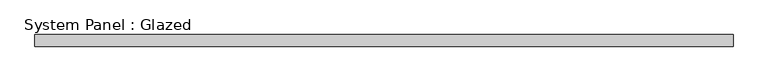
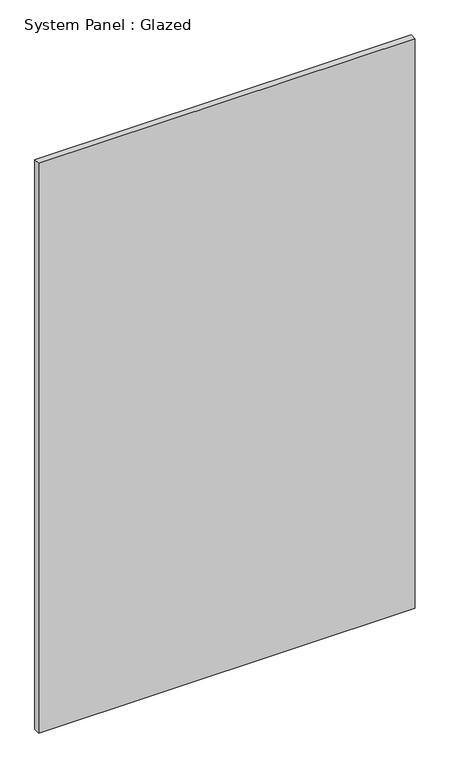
"""IFC4 building model written with IfcOpenShell, lengths in millimetres: plate geometry, System Panel : Glazed."""

import ifcopenshell
import ifcopenshell.guid

model = None  # the IFC model being written
_history = None  # IfcOwnerHistory: only IFC2X3 demands one
_inside = {}  # id of a spatial element -> (the spatial element, [elements in it])
_under = {}  # id of a project, library or spatial element -> (it, [spatial elements below it])
_declared = {}  # id of a project -> (the project, [libraries it declares])
_typed = {}  # id of a type object -> (the type object, [elements of that type])
_made_of = {}  # id of a material, layer set ... -> (it, [elements and type objects made of it])


def new_model(schema):
    """Start an empty IFC model of exactly this schema.

    Asked for "IFC4X3", IfcOpenShell would pick the latest addendum, in which some entities
    have other attributes; the version numbers below select the first issue.
    IFC2X3 requires an IfcOwnerHistory on every rooted entity: one is made here for all.
    """
    global model, _history
    if schema == "IFC4X3":
        model = ifcopenshell.file(schema_version=(4, 3, 0, 0))
    else:
        model = ifcopenshell.file(schema=schema)
    _inside.clear()
    _under.clear()
    _declared.clear()
    _typed.clear()
    _made_of.clear()
    _history = None
    if model.schema == "IFC2X3":
        org = make("IfcOrganization", Name="unknown")
        user = make(
            "IfcPersonAndOrganization",
            ThePerson=make("IfcPerson", FamilyName="unknown"),
            TheOrganization=org,
        )
        app = make(
            "IfcApplication",
            ApplicationDeveloper=org,
            Version="unknown",
            ApplicationFullName="unknown",
            ApplicationIdentifier="unknown",
        )
        _history = make(
            "IfcOwnerHistory",
            OwningUser=user,
            OwningApplication=app,
            ChangeAction="ADDED",
            CreationDate=0,
        )
    return model


def make(cls, **values):
    """One entity of the class cls with the attributes given. An attribute that is None is left unset."""
    return model.create_entity(
        cls, **{name: value for name, value in values.items() if value is not None}
    )


def rooted(cls, **values):
    """An entity with a GlobalId (a new one), such as an element, a storey or a relation."""
    return make(cls, GlobalId=ifcopenshell.guid.new(), OwnerHistory=_history, **values)


def si_unit(unit_type, name, prefix=None):
    """IfcSIUnit, for example si_unit("LENGTHUNIT", "METRE", prefix="MILLI")."""
    return make("IfcSIUnit", UnitType=unit_type, Prefix=prefix, Name=name)


def assignment(units):
    """IfcUnitAssignment: the units of a project."""
    return None if units is None else make("IfcUnitAssignment", Units=units)


def point(xyz):
    """IfcCartesianPoint."""
    return None if xyz is None else make("IfcCartesianPoint", Coordinates=xyz)


def direction(xyz):
    """IfcDirection."""
    return None if xyz is None else make("IfcDirection", DirectionRatios=xyz)


def frame(location, z_axis=None, x_axis=None):
    """IfcAxis2Placement3D, a coordinate frame: its origin and axes. An axis left out is left unset."""
    return make(
        "IfcAxis2Placement3D",
        Location=point(location),
        Axis=direction(z_axis),
        RefDirection=direction(x_axis),
    )


def origin():
    """The frame at (0, 0, 0) with its axes left unset."""
    return frame((0.0, 0.0, 0.0))


def origin_with_axes():
    """The frame at (0, 0, 0) with the z axis (0, 0, 1) and the x axis (1, 0, 0) written out."""
    return frame((0.0, 0.0, 0.0), z_axis=(0.0, 0.0, 1.0), x_axis=(1.0, 0.0, 0.0))


def place(relative_to, where):
    """IfcLocalPlacement: puts the frame where relative to a parent placement (None: the world)."""
    return make(
        "IfcLocalPlacement", PlacementRelTo=relative_to, RelativePlacement=where
    )


def context(
    kind, dimensions, precision=None, world=None, true_north=None, identifier=None
):
    """IfcGeometricRepresentationContext, for example the 3D "Model" context."""
    return make(
        "IfcGeometricRepresentationContext",
        ContextIdentifier=identifier,
        ContextType=kind,
        CoordinateSpaceDimension=dimensions,
        Precision=precision,
        WorldCoordinateSystem=world,
        TrueNorth=true_north,
    )


def project(units=None, contexts=None):
    """IfcProject with its units and contexts."""
    return rooted(
        "IfcProject",
        Name="project",
        RepresentationContexts=contexts,
        UnitsInContext=assignment(units),
    )


def spatial(cls, under=None, at=None, **own):
    """A site, building, storey or space (cls), placed at a placement, below another one or the project."""
    s = rooted(cls, ObjectPlacement=at, **own)
    if under is not None:
        _under.setdefault(under.id(), (under, []))[1].append(s)
    return s


def polyline(points):
    """IfcPolyline through the points."""
    return make("IfcPolyline", Points=[point(p) for p in points])


def outline(outer, holes=None, kind="AREA"):
    """IfcArbitraryClosedProfileDef: a profile drawn as a closed curve; with holes, ...WithVoids."""
    if holes is None:
        return make("IfcArbitraryClosedProfileDef", ProfileType=kind, OuterCurve=outer)
    return make(
        "IfcArbitraryProfileDefWithVoids",
        ProfileType=kind,
        OuterCurve=outer,
        InnerCurves=holes,
    )


def extrude(swept, where, along, depth):
    """IfcExtrudedAreaSolid: the profile swept, set in the frame where, extruded along a direction by depth."""
    return make(
        "IfcExtrudedAreaSolid",
        SweptArea=swept,
        Position=where,
        ExtrudedDirection=direction(along),
        Depth=depth,
    )


def shape(context_of_items, identifier, shape_type, items):
    """IfcShapeRepresentation: the items that make up one representation, for example the "Body"."""
    return make(
        "IfcShapeRepresentation",
        ContextOfItems=context_of_items,
        RepresentationIdentifier=identifier,
        RepresentationType=shape_type,
        Items=items,
    )


def source(mapping_origin, context_of_items, identifier, shape_type, items):
    """IfcRepresentationMap: a shape defined once, which mapped items show again and again."""
    return make(
        "IfcRepresentationMap",
        MappingOrigin=mapping_origin,
        MappedRepresentation=shape(context_of_items, identifier, shape_type, items),
    )


def transform(
    local_origin,
    x_axis=None,
    y_axis=None,
    z_axis=None,
    scale=None,
    scale2=None,
    scale3=None,
    uniform=True,
):
    """IfcCartesianTransformationOperator3D, or its non-uniform kind. x_axis, y_axis, z_axis: its Axis1, 2, 3."""
    if uniform:
        return make(
            "IfcCartesianTransformationOperator3D",
            Axis1=direction(x_axis),
            Axis2=direction(y_axis),
            LocalOrigin=point(local_origin),
            Scale=scale,
            Axis3=direction(z_axis),
        )
    return make(
        "IfcCartesianTransformationOperator3DnonUniform",
        Axis1=direction(x_axis),
        Axis2=direction(y_axis),
        LocalOrigin=point(local_origin),
        Scale=scale,
        Axis3=direction(z_axis),
        Scale2=scale2,
        Scale3=scale3,
    )


def mapped(mapping_source, mapping_target):
    """IfcMappedItem: shows the shape of a source again, moved by a transform."""
    return make(
        "IfcMappedItem", MappingSource=mapping_source, MappingTarget=mapping_target
    )


def made_of(thing, what):
    """Note that an element or type object is made of a material, layer set ...; save() writes the relation."""
    if what is not None:
        _made_of.setdefault(what.id(), (what, []))[1].append(thing)
    return thing


def element(
    cls,
    number,
    at=None,
    inside=None,
    cuts=None,
    type_object=None,
    material=None,
    context=None,
    identifier="Body",
    shape_type=None,
    held_by="IfcProductDefinitionShape",
    body=None,
    shapes=None,
    **own,
):
    """One element of the class cls, such as IfcWall. Its Tag is "e" and its number.

    at: its placement. inside: the storey or other place that contains it. cuts: it is an
    opening in that element (IfcRelVoidsElement). A single representation is given by context,
    identifier, shape_type and body (its items); several are given by shapes. held_by: the class
    of the entity that holds the representations. save() writes the other relations.
    """
    e = rooted(cls, Tag="e%d" % number, ObjectPlacement=at, **own)
    if body is not None:
        shapes = [shape(context, identifier, shape_type, body)]
    if shapes is not None:
        e.Representation = make(held_by, Representations=shapes)
    if inside is not None:
        _inside.setdefault(inside.id(), (inside, []))[1].append(e)
    if cuts is not None:
        rooted(
            "IfcRelVoidsElement", RelatingBuildingElement=cuts, RelatedOpeningElement=e
        )
    if type_object is not None:
        _typed.setdefault(type_object.id(), (type_object, []))[1].append(e)
    return made_of(e, material)


def aggregate(whole, parts):
    """IfcRelAggregates: a whole, such as a stair, and the parts it consists of."""
    return rooted("IfcRelAggregates", RelatingObject=whole, RelatedObjects=parts)


def save(model, path):
    """Write the relations noted so far, then the file.

    IfcRelAggregates (storeys below a building ...), IfcRelContainedInSpatialStructure (elements
    in a storey), IfcRelDefinesByType, IfcRelAssociatesMaterial and IfcRelDeclares: one each for
    every whole, place, type object, material and project.
    """
    for whole, parts in _under.values():
        aggregate(whole, parts)
    for where, things in _inside.values():
        rooted(
            "IfcRelContainedInSpatialStructure",
            RelatedElements=things,
            RelatingStructure=where,
        )
    for kind, things in _typed.values():
        rooted("IfcRelDefinesByType", RelatedObjects=things, RelatingType=kind)
    for what, things in _made_of.values():
        rooted("IfcRelAssociatesMaterial", RelatedObjects=things, RelatingMaterial=what)
    for by, libraries in _declared.values():
        rooted("IfcRelDeclares", RelatingContext=by, RelatedDefinitions=libraries)
    model.write(path)


def system_panel_glazed_24a0e3a8(model_context):
    return source(origin(), model_context, "Body", "SweptSolid", [
        extrude(outline(polyline([(726.9631579, 24.5), (-726.9631579, 24.5), (-726.9631579, 49.5), (726.9631579, 49.5), (726.9631579, 24.5)])), origin_with_axes(), (0.0, 0.0, 1.0), 2325.0),
    ])


if __name__ == "__main__":
    model = new_model("IFC4")
    model_context = context("Model", 3, world=origin())
    ifc_project = project(units=[si_unit("LENGTHUNIT", "METRE", prefix="MILLI")], contexts=[model_context])
    site = spatial("IfcSite", under=ifc_project)
    building = spatial("IfcBuilding", under=site)
    placement = place(None, origin())
    system_panel_glazed_shape = system_panel_glazed_24a0e3a8(model_context)
    element("IfcPlate", 1, ObjectType="System Panel : Glazed", at=placement, inside=building, context=model_context, shape_type="MappedRepresentation", body=[
        mapped(system_panel_glazed_shape, transform((0.0, 0.0, 0.0), x_axis=(1.0, 0.0, 0.0), y_axis=(0.0, 1.0, 0.0), z_axis=(0.0, 0.0, 1.0))),
    ])
    save(model, "model.ifc")
